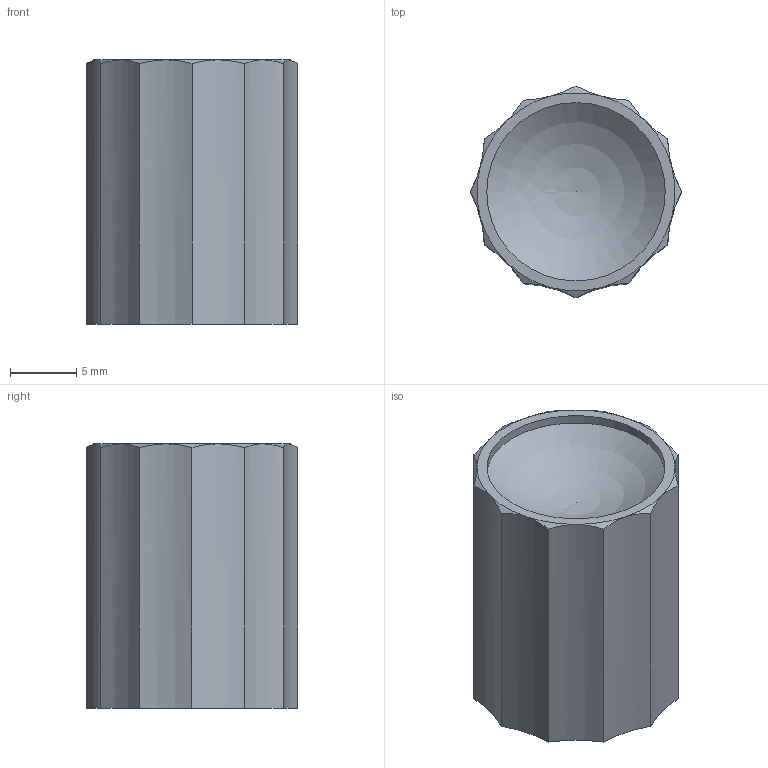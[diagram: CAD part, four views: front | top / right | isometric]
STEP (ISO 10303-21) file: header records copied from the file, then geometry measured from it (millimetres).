
FILE_DESCRIPTION(('STEP AP203'), '1');
FILE_NAME('ural_knob', '2025-06-09T15:18:13', ('psrrul@gmail.com'), (''), 'C3D Converter', 'C3D Toolkit', '');
FILE_SCHEMA(('CONFIG_CONTROL_DESIGN'));
Length unit declared in the file: millimetre
Bounding box: 16 x 16 x 20 mm (x, y, z)
Volume: 2725.5 mm3; surface area: 2242.8 mm2
Topology: 1 solids, 1 shells, 50 faces, 116 edges, 73 vertices
Faces by surface type: cylinder 22, plane 15, cone 12, sphere 1
Full cylindrical faces by diameter (mm): 6 x1, 13.5 x1
Entity records: 2016 total; most frequent: CARTESIAN_POINT 463, DIRECTION 234, ORIENTED_EDGE 224, EDGE_CURVE 112, AXIS2_PLACEMENT_3D 95, VERTEX_POINT 72, EDGE_LOOP 58, FACE_BOUND 53
